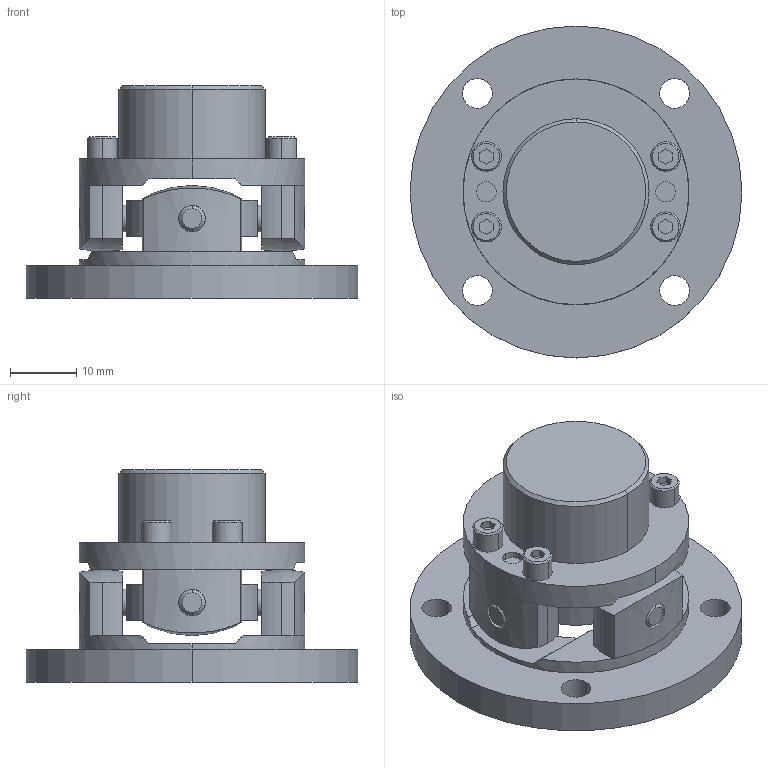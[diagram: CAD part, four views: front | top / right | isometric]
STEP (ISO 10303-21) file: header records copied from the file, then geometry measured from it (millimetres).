
FILE_DESCRIPTION((''),'2;1');
FILE_NAME('UCRF-34.stp','2013-06-12T15:26:20',(''),(''),'AutoCAD STEP 2000i','AutoCAD 2000i',', , ');
FILE_SCHEMA(('CONFIG_CONTROL_DESIGN'));
Length unit declared in the file: millimetre
Products named in the file (4): UCRF-34; 忣兜1; UCNF-3402; UCR-3402
Assembly tree (3 placements, depth 2):
  UCRF-34
    忣兜1
    UCNF-3402
    UCR-3402
Bounding box: 50 x 50 x 32 mm (x, y, z)
Volume: 21045.5 mm3; surface area: 10986.3 mm2
Topology: 1 solids, 1 shells, 233 faces, 583 edges, 400 vertices
Faces by surface type: plane 107, cylinder 94, cone 28, sphere 4
Entity records: 7481 total; most frequent: CARTESIAN_POINT 1537, DIRECTION 1299, ORIENTED_EDGE 1136, EDGE_CURVE 568, AXIS2_PLACEMENT_3D 491, VERTEX_POINT 370, VECTOR 317, LINE 317
